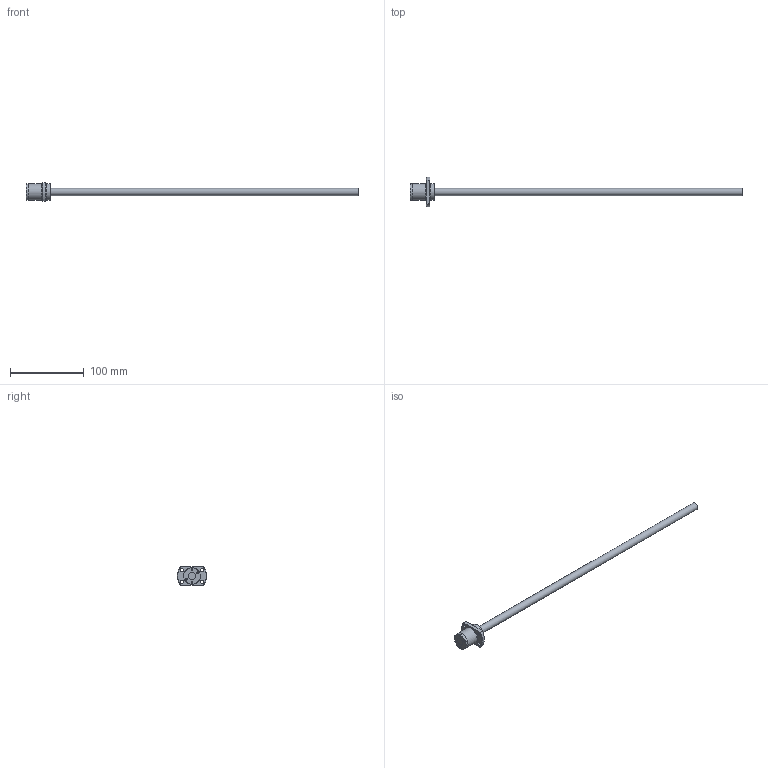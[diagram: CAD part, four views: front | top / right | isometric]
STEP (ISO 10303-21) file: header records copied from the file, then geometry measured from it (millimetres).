
FILE_DESCRIPTION( ( 'STEP AP203' ), '1' );
FILE_NAME( 'e:/temp/worker_100/temp/exporttempdir_1148_1994_xWvKN/format_0/SR1015-450R450C10(0).stp', '2021-10-19T04:00:07', ( 'License CC BY-ND 4.0' ), ( 'CADENAS' ), ' ', 'PARTsolutions', ' ' );
FILE_SCHEMA( ( 'CONFIG_CONTROL_DESIGN' ) );
Length unit declared in the file: millimetre
Products named in the file (3): SR1015-450R450C10(0); _SR1015-450R450C10C10(0)_shaft; _SR1015-450R450C10C10_nut
Assembly tree (2 placements, depth 2):
  SR1015-450R450C10(0)
    _SR1015-450R450C10C10(0)_shaft
    _SR1015-450R450C10C10_nut
Bounding box: 450 x 40 x 25 mm (x, y, z)
Volume: 48500.4 mm3; surface area: 19853.9 mm2
Topology: 2 solids, 2 shells, 84 faces, 199 edges, 131 vertices
Faces by surface type: plane 55, cylinder 21, cone 8
Full cylindrical faces by diameter (mm): 2.15 x1, 2.5 x2, 4.5 x4, 10 x2, 22.5 x3, 23 x2
Entity records: 2448 total; most frequent: CARTESIAN_POINT 419, DIRECTION 402, ORIENTED_EDGE 358, EDGE_CURVE 179, AXIS2_PLACEMENT_3D 144, VERTEX_POINT 129, EDGE_LOOP 124, LINE 114
